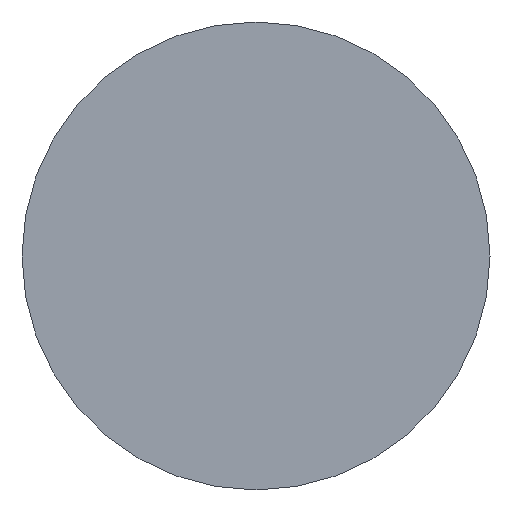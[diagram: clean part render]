
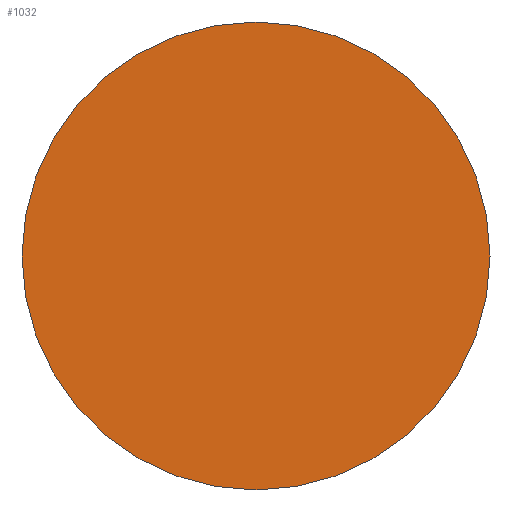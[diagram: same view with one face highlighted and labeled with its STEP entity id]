
A CAD part, front view. The second image highlights one B-rep face of the part: STEP entity #1032.
In plain terms, the highlighted planar face has unit normal (0, -1, 0).
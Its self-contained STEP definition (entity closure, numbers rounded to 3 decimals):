
#10 = CARTESIAN_POINT ( 'NONE',  ( 0.034, -13.831, 0. ) ) ;
#46 = EDGE_CURVE ( 'NONE', #855, #840, #638, .T. ) ;
#70 = EDGE_LOOP ( 'NONE', ( #119, #86 ) ) ;
#73 = CARTESIAN_POINT ( 'NONE',  ( -34.866, -13.831, 0. ) ) ;
#86 = ORIENTED_EDGE ( 'NONE', *, *, #46, .T. ) ;
#114 = AXIS2_PLACEMENT_3D ( 'NONE', #10, #901, #264 ) ;
#119 = ORIENTED_EDGE ( 'NONE', *, *, #373, .T. ) ;
#251 = CIRCLE ( 'NONE', #265, 34.9 ) ;
#264 = DIRECTION ( 'NONE',  ( 1., 0., 0. ) ) ;
#265 = AXIS2_PLACEMENT_3D ( 'NONE', #1029, #390, #940 ) ;
#311 = CARTESIAN_POINT ( 'NONE',  ( 34.934, -13.831, 0. ) ) ;
#335 = PLANE ( 'NONE',  #114 ) ;
#339 = FACE_OUTER_BOUND ( 'NONE', #70, .T. ) ;
#373 = EDGE_CURVE ( 'NONE', #840, #855, #251, .T. ) ;
#390 = DIRECTION ( 'NONE',  ( 0., -1., 0. ) ) ;
#469 = DIRECTION ( 'NONE',  ( 0., -1., 0. ) ) ;
#638 = CIRCLE ( 'NONE', #1004, 34.9 ) ;
#655 = DIRECTION ( 'NONE',  ( 1., 0., 0. ) ) ;
#840 = VERTEX_POINT ( 'NONE', #311 ) ;
#855 = VERTEX_POINT ( 'NONE', #73 ) ;
#901 = DIRECTION ( 'NONE',  ( 0., -1., 0. ) ) ;
#922 = CARTESIAN_POINT ( 'NONE',  ( 0.034, -13.831, 0. ) ) ;
#940 = DIRECTION ( 'NONE',  ( 1., 0., 0. ) ) ;
#1004 = AXIS2_PLACEMENT_3D ( 'NONE', #922, #469, #655 ) ;
#1029 = CARTESIAN_POINT ( 'NONE',  ( 0.034, -13.831, 0. ) ) ;
#1032 = ADVANCED_FACE ( 'NONE', ( #339 ), #335, .T. ) ;
